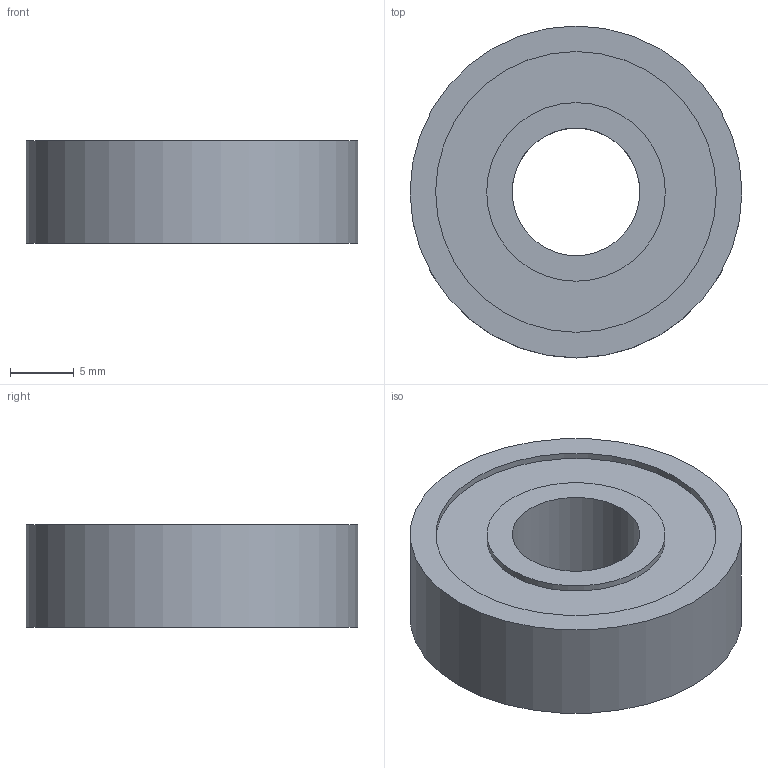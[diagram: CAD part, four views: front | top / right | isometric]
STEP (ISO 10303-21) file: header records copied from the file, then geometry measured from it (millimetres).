
FILE_DESCRIPTION(('STEP AP242'), '1');
FILE_NAME('Ïîäøèïíèê', '', ('UNSPECIFIED'), ('UNSPECIFIED'), 'C3D Converter', 'C3D Toolkit', '');
FILE_SCHEMA(('AP242_MANAGED_MODEL_BASED_3D_ENGINEERING_MIM_LF { 1 0 10303 442 1 1 4 }'));
Length unit declared in the file: millimetre
Products named in the file (1): Подшипник
Bounding box: 26 x 26 x 8 mm (x, y, z)
Volume: 3392.9 mm3; surface area: 1922.7 mm2
Topology: 1 solids, 1 shells, 12 faces, 18 edges, 12 vertices
Faces by surface type: cylinder 6, plane 6
Full cylindrical faces by diameter (mm): 10 x1, 14 x2, 22 x2, 26 x1
Entity records: 304 total; most frequent: DIRECTION 50, CARTESIAN_POINT 37, AXIS2_PLACEMENT_3D 25, EDGE_LOOP 24, ORIENTED_EDGE 24, ADVANCED_FACE 12, FACE_OUTER_BOUND 12, FACE_BOUND 12
